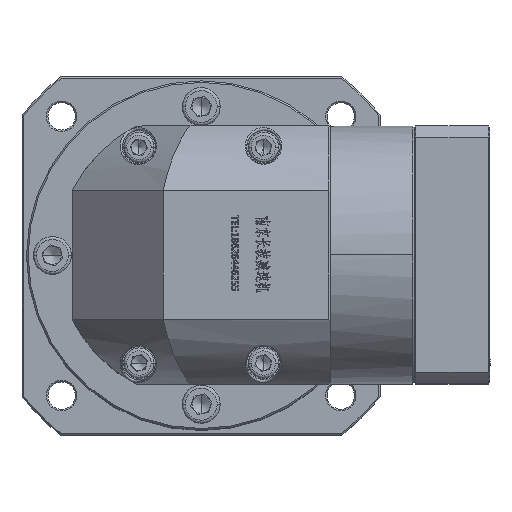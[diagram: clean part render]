
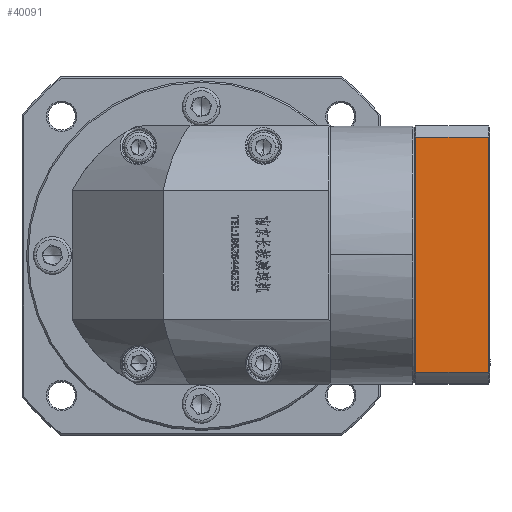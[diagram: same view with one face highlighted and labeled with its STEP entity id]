
A CAD part, top view. The second image highlights one B-rep face of the part: STEP entity #40091.
In plain terms, the highlighted planar face has unit normal (0, 0, 1).
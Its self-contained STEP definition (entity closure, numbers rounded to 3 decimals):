
#3325 = VECTOR ( 'NONE', #166045, 1000. ) ;
#12425 = LINE ( 'NONE', #136179, #153019 ) ;
#15533 = EDGE_CURVE ( 'NONE', #48447, #91132, #125762, .T. ) ;
#29677 = EDGE_CURVE ( 'NONE', #76385, #175548, #126245, .T. ) ;
#29895 = CARTESIAN_POINT ( 'NONE',  ( 106.88, 100.462, 60.743 ) ) ;
#30720 = DIRECTION ( 'NONE',  ( -1., 0., 0. ) ) ;
#31661 = PLANE ( 'NONE',  #140656 ) ;
#33173 = LINE ( 'NONE', #43413, #3325 ) ;
#40091 = ADVANCED_FACE ( 'NONE', ( #88967 ), #31661, .F. ) ;
#41550 = DIRECTION ( 'NONE',  ( 0., -1., 0. ) ) ;
#43413 = CARTESIAN_POINT ( 'NONE',  ( 106.88, 181.691, 60.743 ) ) ;
#48447 = VERTEX_POINT ( 'NONE', #123519 ) ;
#54759 = EDGE_CURVE ( 'NONE', #175548, #91132, #12425, .T. ) ;
#65860 = CARTESIAN_POINT ( 'NONE',  ( 106.38, 181.691, 60.743 ) ) ;
#68790 = CARTESIAN_POINT ( 'NONE',  ( 106.38, 104.232, 60.743 ) ) ;
#69829 = ORIENTED_EDGE ( 'NONE', *, *, #54759, .F. ) ;
#76385 = VERTEX_POINT ( 'NONE', #65860 ) ;
#77019 = CARTESIAN_POINT ( 'NONE',  ( 82.38, 100.462, 60.743 ) ) ;
#85794 = VECTOR ( 'NONE', #41550, 1000. ) ;
#88967 = FACE_OUTER_BOUND ( 'NONE', #121593, .T. ) ;
#89571 = VECTOR ( 'NONE', #172298, 1000. ) ;
#91132 = VERTEX_POINT ( 'NONE', #126967 ) ;
#98329 = DIRECTION ( 'NONE',  ( 0., 1., 0. ) ) ;
#113191 = DIRECTION ( 'NONE',  ( 0., 0., -1. ) ) ;
#121593 = EDGE_LOOP ( 'NONE', ( #144714, #69829, #137586, #160630 ) ) ;
#123519 = CARTESIAN_POINT ( 'NONE',  ( 82.38, 181.691, 60.743 ) ) ;
#125762 = LINE ( 'NONE', #77019, #89571 ) ;
#126245 = LINE ( 'NONE', #136857, #85794 ) ;
#126967 = CARTESIAN_POINT ( 'NONE',  ( 82.38, 104.232, 60.743 ) ) ;
#136179 = CARTESIAN_POINT ( 'NONE',  ( -82.381, 104.232, 60.743 ) ) ;
#136857 = CARTESIAN_POINT ( 'NONE',  ( 106.38, 100.462, 60.743 ) ) ;
#137586 = ORIENTED_EDGE ( 'NONE', *, *, #29677, .F. ) ;
#140656 = AXIS2_PLACEMENT_3D ( 'NONE', #29895, #113191, #98329 ) ;
#144714 = ORIENTED_EDGE ( 'NONE', *, *, #15533, .T. ) ;
#153019 = VECTOR ( 'NONE', #30720, 1000. ) ;
#160630 = ORIENTED_EDGE ( 'NONE', *, *, #171762, .F. ) ;
#166045 = DIRECTION ( 'NONE',  ( 1., 0., 0. ) ) ;
#171762 = EDGE_CURVE ( 'NONE', #48447, #76385, #33173, .T. ) ;
#172298 = DIRECTION ( 'NONE',  ( 0., -1., 0. ) ) ;
#175548 = VERTEX_POINT ( 'NONE', #68790 ) ;
